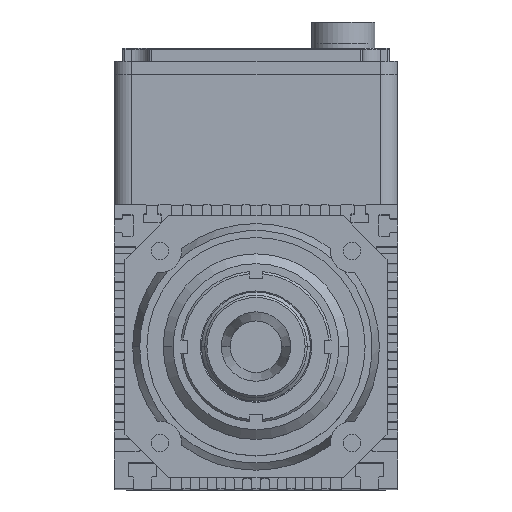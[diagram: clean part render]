
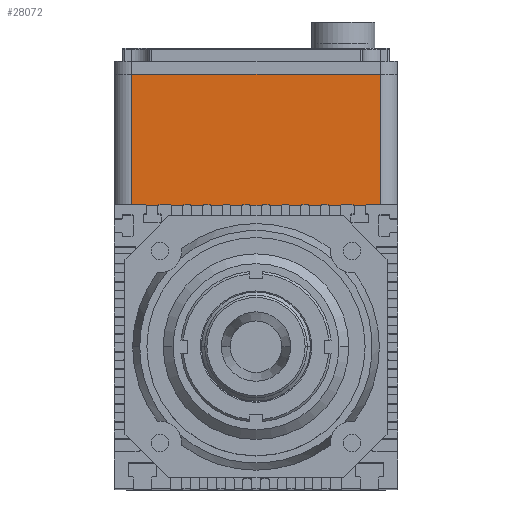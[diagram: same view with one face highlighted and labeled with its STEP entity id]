
A CAD part, top view. The second image highlights one B-rep face of the part: STEP entity #28072.
In plain terms, the highlighted planar face has unit normal (0, 0, 1).
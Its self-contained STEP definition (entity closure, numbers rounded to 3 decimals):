
#1892 = EDGE_CURVE ( 'NONE', #32340, #15679, #36781, .T. ) ;
#3898 = ORIENTED_EDGE ( 'NONE', *, *, #1892, .T. ) ;
#6838 = EDGE_CURVE ( 'NONE', #32340, #27672, #44883, .T. ) ;
#7394 = DIRECTION ( 'NONE',  ( -1., 0., 0. ) ) ;
#7697 = EDGE_CURVE ( 'NONE', #27672, #42875, #17734, .T. ) ;
#8431 = ORIENTED_EDGE ( 'NONE', *, *, #13586, .T. ) ;
#10505 = FACE_OUTER_BOUND ( 'NONE', #39031, .T. ) ;
#10925 = DIRECTION ( 'NONE',  ( -1., 0., 0. ) ) ;
#12121 = ORIENTED_EDGE ( 'NONE', *, *, #7697, .F. ) ;
#12562 = CARTESIAN_POINT ( 'NONE',  ( 0., 0., 51. ) ) ;
#13586 = EDGE_CURVE ( 'NONE', #15679, #42875, #39877, .T. ) ;
#15136 = CARTESIAN_POINT ( 'NONE',  ( 57., 0., 51. ) ) ;
#15679 = VERTEX_POINT ( 'NONE', #35755 ) ;
#16128 = CARTESIAN_POINT ( 'NONE',  ( 0., 60., 51. ) ) ;
#17060 = AXIS2_PLACEMENT_3D ( 'NONE', #34532, #29367, #24187 ) ;
#17575 = ORIENTED_EDGE ( 'NONE', *, *, #6838, .F. ) ;
#17734 = LINE ( 'NONE', #12562, #31366 ) ;
#23614 = VECTOR ( 'NONE', #29382, 1000. ) ;
#24187 = DIRECTION ( 'NONE',  ( 1., 0., 0. ) ) ;
#25175 = VECTOR ( 'NONE', #29542, 1000. ) ;
#27672 = VERTEX_POINT ( 'NONE', #15136 ) ;
#28072 = ADVANCED_FACE ( 'NONE', ( #10505 ), #39695, .T. ) ;
#29367 = DIRECTION ( 'NONE',  ( 0., 0., 1. ) ) ;
#29382 = DIRECTION ( 'NONE',  ( 0., -1., 0. ) ) ;
#29542 = DIRECTION ( 'NONE',  ( 0., -1., 0. ) ) ;
#31366 = VECTOR ( 'NONE', #7394, 1000. ) ;
#31781 = CARTESIAN_POINT ( 'NONE',  ( -57., 0., 51. ) ) ;
#32340 = VERTEX_POINT ( 'NONE', #45951 ) ;
#34532 = CARTESIAN_POINT ( 'NONE',  ( 0., 60., 51. ) ) ;
#34545 = CARTESIAN_POINT ( 'NONE',  ( 57., 60., 51. ) ) ;
#34710 = CARTESIAN_POINT ( 'NONE',  ( -57., 60., 51. ) ) ;
#35755 = CARTESIAN_POINT ( 'NONE',  ( -57., 60., 51. ) ) ;
#36781 = LINE ( 'NONE', #16128, #39274 ) ;
#39031 = EDGE_LOOP ( 'NONE', ( #12121, #17575, #3898, #8431 ) ) ;
#39274 = VECTOR ( 'NONE', #10925, 1000. ) ;
#39695 = PLANE ( 'NONE',  #17060 ) ;
#39877 = LINE ( 'NONE', #34710, #25175 ) ;
#42875 = VERTEX_POINT ( 'NONE', #31781 ) ;
#44883 = LINE ( 'NONE', #34545, #23614 ) ;
#45951 = CARTESIAN_POINT ( 'NONE',  ( 57., 60., 51. ) ) ;
